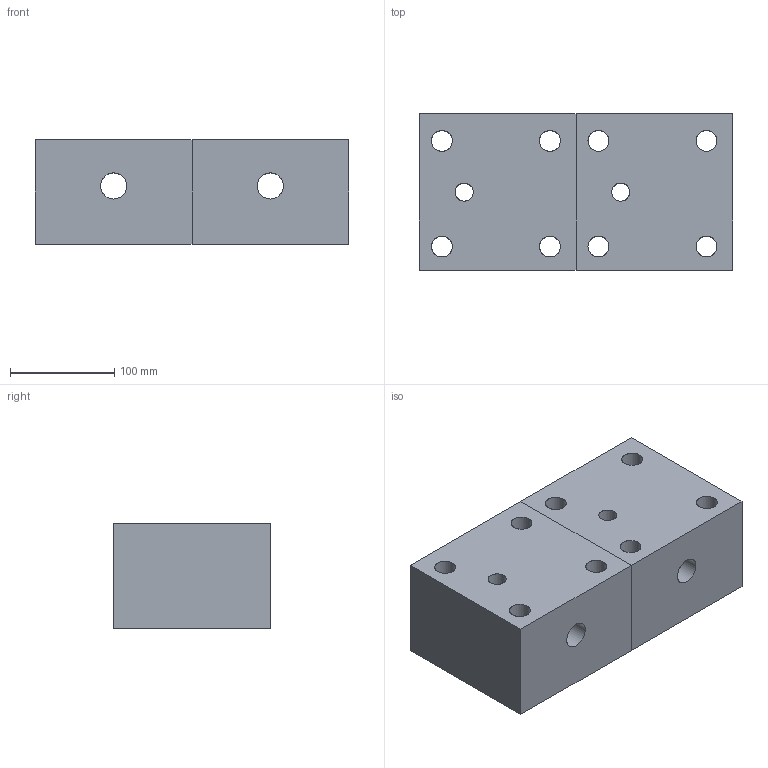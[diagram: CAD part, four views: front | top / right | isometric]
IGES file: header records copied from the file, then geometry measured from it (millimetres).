
Start section: C
Global section: file name: case2__.igs; native system: ABCDEFGHIJKLM; preprocessor: ABCDEFGHIJKLMNOPQRSTUV; author: Author; organization: Title; date: 20130311.105813; units: millimetre
Bounding box: 300 x 150 x 100 mm (x, y, z)
Surface area: 286927.3 mm2 (no closed solid volume)
Topology: 0 solids, 0 shells, 24 faces, 168 edges, 168 vertices
Faces by surface type: bspline 24
